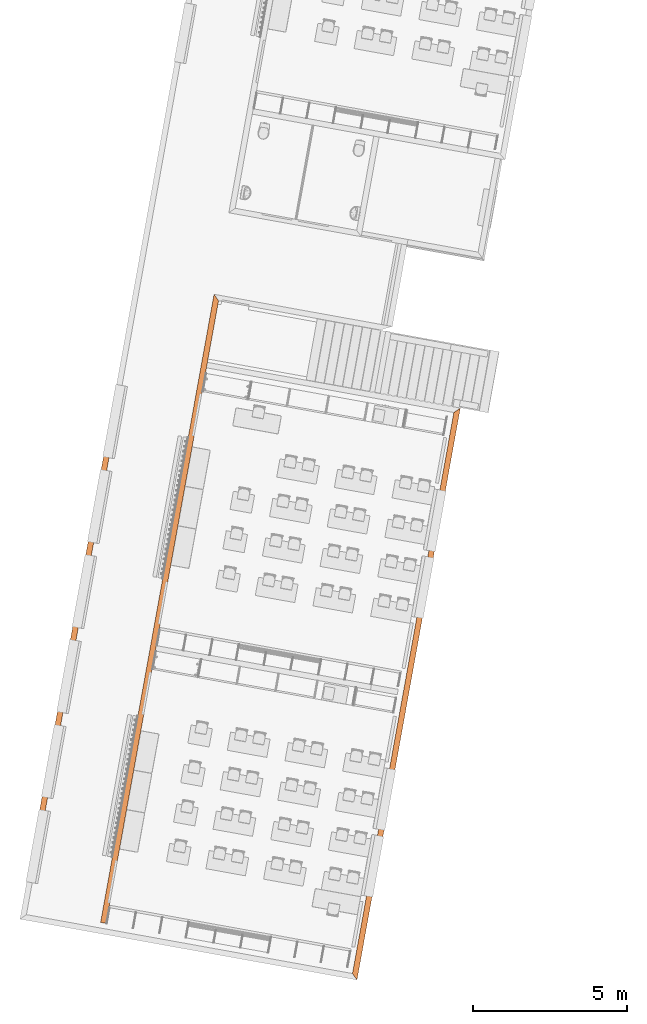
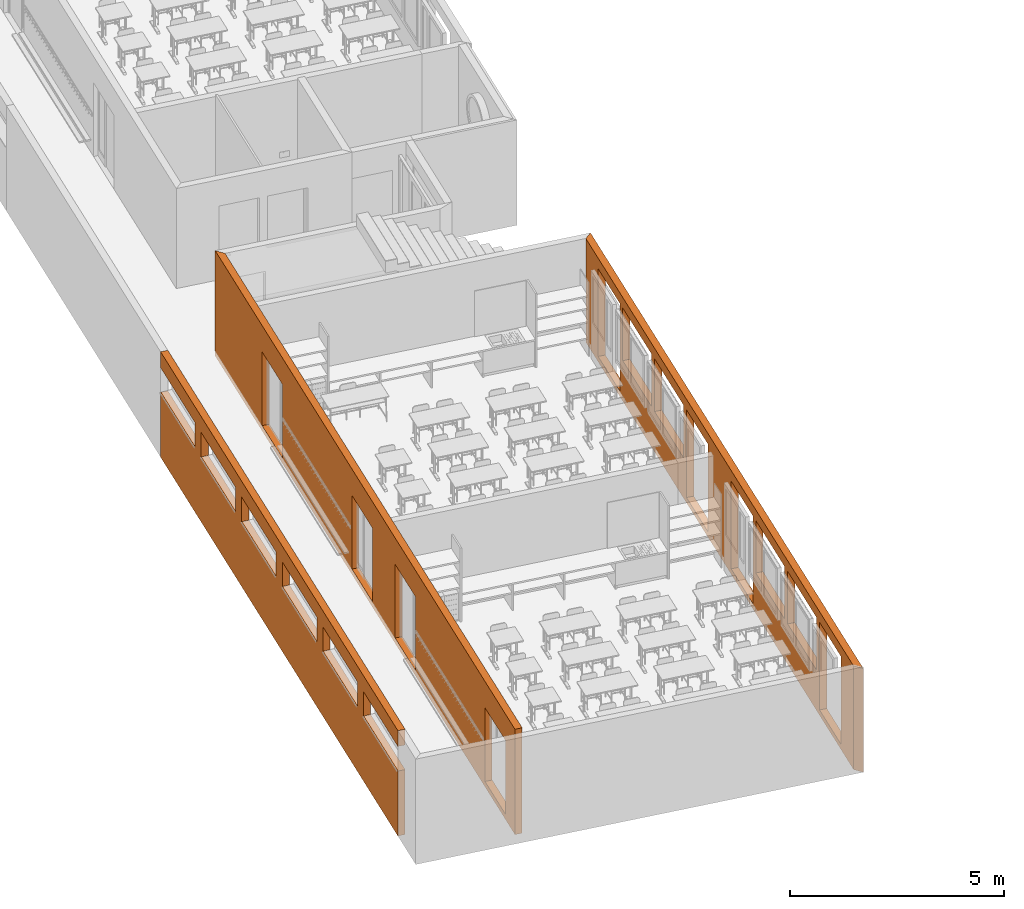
# One storey, part 56 of 79: 3 proxies.
"""IFC2X3 building model written with IfcOpenShell, lengths in metres."""

from ifc_helpers import new_model, entity, si_unit, converted_unit, derived_unit, money_unit, direction, frame, origin_with_axes, place, context, subcontext, project, spatial, polyline, outline, extrude, boolean, faceted_brep, material, type_object, element, save


model = new_model("IFC2X3")

# Units and contexts
model_context = context("Model", 3, precision=1e-05, world=origin_with_axes(), true_north=direction((0.0, 1.0)))
body_context = subcontext(model_context, "Body", "Model", "MODEL_VIEW")
ifc_project = project(units=[si_unit("LENGTHUNIT", "METRE"), si_unit("AREAUNIT", "SQUARE_METRE"), si_unit("VOLUMEUNIT", "CUBIC_METRE"), converted_unit("PLANEANGLEUNIT", "DEGREE", entity("IfcPlaneAngleMeasure", 0.0174532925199), si_unit("PLANEANGLEUNIT", "RADIAN"), dimensions=[0, 0, 0, 0, 0, 0, 0]), money_unit("CHF"), converted_unit("TIMEUNIT", "Year", entity("IfcTimeMeasure", 31556926.0), si_unit("TIMEUNIT", "SECOND"), dimensions=[0, 0, 1, 0, 0, 0, 0]), si_unit("MASSUNIT", "GRAM", prefix="KILO"), si_unit("THERMODYNAMICTEMPERATUREUNIT", "DEGREE_CELSIUS"), si_unit("LUMINOUSINTENSITYUNIT", "LUMEN"), si_unit("ENERGYUNIT", "JOULE", prefix="MEGA"), derived_unit("THERMALCONDUCTANCEUNIT", [(si_unit("POWERUNIT", "WATT"), 1), (si_unit("LENGTHUNIT", "METRE"), -1), (si_unit("THERMODYNAMICTEMPERATUREUNIT", "KELVIN"), -1)]), derived_unit("SPECIFICHEATCAPACITYUNIT", [(si_unit("ENERGYUNIT", "JOULE"), 1), (si_unit("MASSUNIT", "GRAM", prefix="KILO"), -1), (si_unit("THERMODYNAMICTEMPERATUREUNIT", "KELVIN"), -1)]), derived_unit("MASSDENSITYUNIT", [(si_unit("MASSUNIT", "GRAM", prefix="KILO"), 1), (si_unit("VOLUMEUNIT", "CUBIC_METRE"), -1)])], contexts=[model_context])

# Site, building, storey
site_placement = place(None, frame((0.0, 0.0, 0.0), z_axis=(0.0, 0.0, 1.0), x_axis=(-0.177771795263, -0.984071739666, 0.0)))
site = spatial("IfcSite", under=ifc_project, at=site_placement, Name="Site", CompositionType="ELEMENT")
building_placement = place(site_placement, origin_with_axes())
building = spatial("IfcBuilding", under=site, at=building_placement, Name="Bâtiment", CompositionType="ELEMENT")
storey_placement = place(building_placement, origin_with_axes())
storey = spatial("IfcBuildingStorey", under=building, at=storey_placement, Name="RDC", CompositionType="ELEMENT", Elevation=0.0)

# Proxies
ifc_material = material(Name="_BA banché RAL9007")
building_element_proxy_type_1 = type_object("IfcBuildingElementProxyType", Name="_BA banché RAL9007 180", PredefinedType="NOTDEFINED")
proxy_1_placement = place(storey_placement, frame((165.029841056, -156.627150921, -0.15), z_axis=(0.0, 0.0, 1.0), x_axis=(-1.0, 6.24383617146e-08, 0.0)))
element("IfcBuildingElementProxy", 1, at=proxy_1_placement, inside=storey, type_object=building_element_proxy_type_1, material=ifc_material, Name="M refend", context=body_context, shape_type="CSG", body=[
    boolean("DIFFERENCE", boolean("DIFFERENCE", boolean("DIFFERENCE", boolean("DIFFERENCE", extrude(outline(polyline([(0.360000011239, -0.18), (20.8699998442, -0.18), (21.049999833, 0.0), (0.36, 0.0), (0.360000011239, -0.18)])), origin_with_axes(), (0.0, 0.0, 1.0), 3.0), faceted_brep([(17.809999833, 0.0, 0.15), (16.409999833, 0.0, 0.15), (16.409999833, 0.0, 2.25), (17.809999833, 0.0, 2.25), (17.8099998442, -0.18, 0.15), (16.4099998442, -0.18, 0.15), (16.4099998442, -0.18, 2.25), (17.8099998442, -0.18, 2.25)], [[[0, 1, 2, 3]], [[4, 5, 1, 0]], [[5, 6, 2, 1]], [[6, 7, 3, 2]], [[7, 4, 0, 3]], [[4, 7, 6, 5]]])), faceted_brep([(11.6099999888, 0.0, 0.15), (10.2099999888, 0.0, 0.15), (10.2099999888, 0.0, 2.25), (11.6099999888, 0.0, 2.25), (11.61, -0.18, 0.15), (10.21, -0.18, 0.15), (10.21, -0.18, 2.25), (11.61, -0.18, 2.25)], [[[0, 1, 2, 3]], [[4, 5, 1, 0]], [[5, 6, 2, 1]], [[6, 7, 3, 2]], [[7, 4, 0, 3]], [[4, 7, 6, 5]]])), faceted_brep([(8.62999998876, 0.0, 0.15), (7.22999998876, 0.0, 0.15), (7.22999998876, 0.0, 2.25), (8.62999998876, 0.0, 2.25), (8.63, -0.18, 0.15), (7.23, -0.18, 0.15), (7.23, -0.18, 2.25), (8.63, -0.18, 2.25)], [[[0, 1, 2, 3]], [[4, 5, 1, 0]], [[5, 6, 2, 1]], [[6, 7, 3, 2]], [[7, 4, 0, 3]], [[4, 7, 6, 5]]])), faceted_brep([(2.42999998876, 0.0, 0.15), (1.02999998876, 0.0, 0.15), (1.02999998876, 0.0, 2.25), (2.42999998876, 0.0, 2.25), (2.43, -0.18, 0.15), (1.03, -0.18, 0.15), (1.03, -0.18, 2.25), (2.43, -0.18, 2.25)], [[[0, 1, 2, 3]], [[4, 5, 1, 0]], [[5, 6, 2, 1]], [[6, 7, 3, 2]], [[7, 4, 0, 3]], [[4, 7, 6, 5]]])),
])
building_element_proxy_type_2 = type_object("IfcBuildingElementProxyType", Name="_M ext couloir 360 x 3000", PredefinedType="NOTDEFINED")
proxy_2_placement = place(storey_placement, frame((163.799841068, -159.217107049, -0.15), z_axis=(0.0, 0.0, 1.0), x_axis=(-1.0, 0.0, 0.0)))
element("IfcBuildingElementProxy", 2, at=proxy_2_placement, inside=storey, type_object=building_element_proxy_type_2, material=ifc_material, Name="M ext-Ouest", context=body_context, shape_type="CSG", body=[
    boolean("DIFFERENCE", boolean("DIFFERENCE", boolean("DIFFERENCE", boolean("DIFFERENCE", boolean("DIFFERENCE", boolean("DIFFERENCE", extrude(outline(polyline([(-0.18, 2.55), (-0.18, 1.82), (-0.18, 0.0), (0.0, 0.0), (0.0, 1.82), (0.0, 2.55), (0.0, 3.0), (-0.18, 3.0), (-0.18, 2.55)])), frame((0.0, 0.0, 0.0), z_axis=(1.0, 0.0, 0.0), x_axis=(0.0, 1.0, 0.0)), (0.0, 0.0, 1.0), 16.3799998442), faceted_brep([(13.9999998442, -0.18, 1.85), (16.3799998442, -0.18, 1.85), (16.3799998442, -0.18, 2.55), (13.9999998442, -0.18, 2.55), (13.9999998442, 0.0, 1.85), (16.3799998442, 0.0, 1.85), (16.3799998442, 0.0, 2.55), (13.9999998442, 0.0, 2.55)], [[[0, 1, 2, 3]], [[1, 0, 4, 5]], [[6, 2, 1, 5]], [[3, 2, 6, 7]], [[0, 3, 7, 4]], [[7, 6, 5, 4]]])), faceted_brep([(13.58, 0.0, 1.85), (11.2, 0.0, 1.85), (11.2, 0.0, 2.55), (13.58, 0.0, 2.55), (13.58, -0.18, 1.85), (11.2, -0.18, 1.85), (11.2, -0.18, 2.55), (13.58, -0.18, 2.55)], [[[0, 1, 2, 3]], [[4, 5, 1, 0]], [[5, 6, 2, 1]], [[6, 7, 3, 2]], [[7, 4, 0, 3]], [[4, 7, 6, 5]]])), faceted_brep([(10.78, 0.0, 1.85), (8.4, 0.0, 1.85), (8.4, 0.0, 2.55), (10.78, 0.0, 2.55), (10.78, -0.18, 1.85), (8.4, -0.18, 1.85), (8.4, -0.18, 2.55), (10.78, -0.18, 2.55)], [[[0, 1, 2, 3]], [[4, 5, 1, 0]], [[5, 6, 2, 1]], [[6, 7, 3, 2]], [[7, 4, 0, 3]], [[4, 7, 6, 5]]])), faceted_brep([(7.98, 0.0, 1.85), (5.6, 0.0, 1.85), (5.6, 0.0, 2.55), (7.98, 0.0, 2.55), (7.98, -0.18, 1.85), (5.6, -0.18, 1.85), (5.6, -0.18, 2.55), (7.98, -0.18, 2.55)], [[[0, 1, 2, 3]], [[4, 5, 1, 0]], [[5, 6, 2, 1]], [[6, 7, 3, 2]], [[7, 4, 0, 3]], [[4, 7, 6, 5]]])), faceted_brep([(5.18, 0.0, 1.85), (2.8, 0.0, 1.85), (2.8, 0.0, 2.55), (5.18, 0.0, 2.55), (5.18, -0.18, 1.85), (2.8, -0.18, 1.85), (2.8, -0.18, 2.55), (5.18, -0.18, 2.55)], [[[0, 1, 2, 3]], [[4, 5, 1, 0]], [[5, 6, 2, 1]], [[6, 7, 3, 2]], [[7, 4, 0, 3]], [[4, 7, 6, 5]]])), faceted_brep([(2.38, -0.18, 1.85), (2.38, -0.18, 2.55), (0.0, -0.18, 2.55), (0.0, -0.18, 1.85), (2.38, 0.0, 1.85), (2.38, 0.0, 2.55), (0.0, 0.0, 2.55), (0.0, 0.0, 1.85)], [[[0, 1, 2, 3]], [[1, 0, 4, 5]], [[6, 2, 1, 5]], [[7, 3, 2, 6]], [[0, 3, 7, 4]], [[4, 7, 6, 5]]])),
])
building_element_proxy_type_3 = type_object("IfcBuildingElementProxyType", Name="_M ext 18 +18 gris 360", PredefinedType="NOTDEFINED")
proxy_3_placement = place(storey_placement, frame((165.029841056, -148.117150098, -0.15), z_axis=(0.0, 0.0, 1.0), x_axis=(-1.0, 0.0, 0.0)))
element("IfcBuildingElementProxy", 3, at=proxy_3_placement, inside=storey, type_object=building_element_proxy_type_3, material=ifc_material, Name="M ext-Est", context=body_context, shape_type="CSG", body=[
    boolean("DIFFERENCE", boolean("DIFFERENCE", boolean("DIFFERENCE", boolean("DIFFERENCE", boolean("DIFFERENCE", boolean("DIFFERENCE", boolean("DIFFERENCE", boolean("DIFFERENCE", extrude(outline(polyline([(0.0, 0.0), (18.839999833, 0.0), (18.659999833, 0.18), (0.18, 0.18), (0.0, 0.0)])), origin_with_axes(), (0.0, 0.0, 1.0), 2.95), faceted_brep([(17.8099998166, 0.18, 0.15), (16.3099998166, 0.18, 0.15), (16.3099998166, 0.18, 2.65), (17.8099998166, 0.18, 2.65), (17.8099998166, 0.0, 0.15), (16.3099998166, 0.0, 0.15), (16.3099998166, 0.0, 2.65), (17.8099998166, 0.0, 2.65)], [[[0, 1, 2, 3]], [[4, 5, 1, 0]], [[5, 6, 2, 1]], [[6, 7, 3, 2]], [[7, 4, 0, 3]], [[4, 7, 6, 5]]])), faceted_brep([(16.1099999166, 0.18, 1.15), (14.1099999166, 0.18, 1.15), (14.1099999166, 0.18, 2.65), (16.1099999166, 0.18, 2.65), (16.1099999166, 0.0, 1.15), (14.1099999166, 0.0, 1.15), (14.1099999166, 0.0, 2.65), (16.1099999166, 0.0, 2.65)], [[[0, 1, 2, 3]], [[4, 5, 1, 0]], [[5, 6, 2, 1]], [[6, 7, 3, 2]], [[7, 4, 0, 3]], [[4, 7, 6, 5]]])), faceted_brep([(13.9099999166, 0.18, 1.15), (11.9099999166, 0.18, 1.15), (11.9099999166, 0.18, 2.65), (13.9099999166, 0.18, 2.65), (13.9099999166, 0.0, 1.15), (11.9099999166, 0.0, 1.15), (11.9099999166, 0.0, 2.65), (13.9099999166, 0.0, 2.65)], [[[0, 1, 2, 3]], [[4, 5, 1, 0]], [[5, 6, 2, 1]], [[6, 7, 3, 2]], [[7, 4, 0, 3]], [[4, 7, 6, 5]]])), faceted_brep([(11.7099998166, 0.18, 0.15), (10.2099998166, 0.18, 0.15), (10.2099998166, 0.18, 2.65), (11.7099998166, 0.18, 2.65), (11.7099998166, 0.0, 0.15), (10.2099998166, 0.0, 0.15), (10.2099998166, 0.0, 2.65), (11.7099998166, 0.0, 2.65)], [[[0, 1, 2, 3]], [[4, 5, 1, 0]], [[5, 6, 2, 1]], [[6, 7, 3, 2]], [[7, 4, 0, 3]], [[4, 7, 6, 5]]])), faceted_brep([(8.6299999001, 0.18, 0.15), (7.1299999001, 0.18, 0.15), (7.1299999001, 0.18, 2.65), (8.6299999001, 0.18, 2.65), (8.6299999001, 0.0, 0.15), (7.1299999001, 0.0, 0.15), (7.1299999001, 0.0, 2.65), (8.6299999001, 0.0, 2.65)], [[[0, 1, 2, 3]], [[4, 5, 1, 0]], [[5, 6, 2, 1]], [[6, 7, 3, 2]], [[7, 4, 0, 3]], [[4, 7, 6, 5]]])), faceted_brep([(6.92999991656, 0.18, 1.15), (4.92999991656, 0.18, 1.15), (4.92999991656, 0.18, 2.65), (6.92999991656, 0.18, 2.65), (6.92999991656, 0.0, 1.15), (4.92999991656, 0.0, 1.15), (4.92999991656, 0.0, 2.65), (6.92999991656, 0.0, 2.65)], [[[0, 1, 2, 3]], [[4, 5, 1, 0]], [[5, 6, 2, 1]], [[6, 7, 3, 2]], [[7, 4, 0, 3]], [[4, 7, 6, 5]]])), faceted_brep([(4.72999991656, 0.18, 1.15), (2.72999991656, 0.18, 1.15), (2.72999991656, 0.18, 2.65), (4.72999991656, 0.18, 2.65), (4.72999991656, 0.0, 1.15), (2.72999991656, 0.0, 1.15), (2.72999991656, 0.0, 2.65), (4.72999991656, 0.0, 2.65)], [[[0, 1, 2, 3]], [[4, 5, 1, 0]], [[5, 6, 2, 1]], [[6, 7, 3, 2]], [[7, 4, 0, 3]], [[4, 7, 6, 5]]])), faceted_brep([(2.5299999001, 0.18, 0.15), (1.0299999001, 0.18, 0.15), (1.0299999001, 0.18, 2.65), (2.5299999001, 0.18, 2.65), (2.5299999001, 0.0, 0.15), (1.0299999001, 0.0, 0.15), (1.0299999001, 0.0, 2.65), (2.5299999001, 0.0, 2.65)], [[[0, 1, 2, 3]], [[4, 5, 1, 0]], [[5, 6, 2, 1]], [[6, 7, 3, 2]], [[7, 4, 0, 3]], [[4, 7, 6, 5]]])),
])

save(model, "model.ifc")
